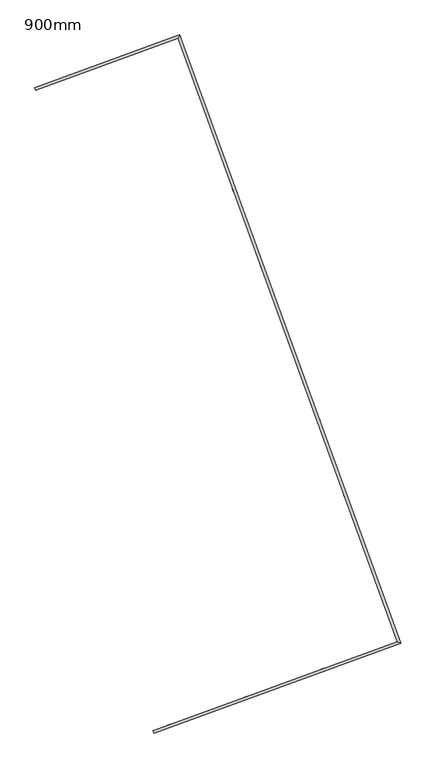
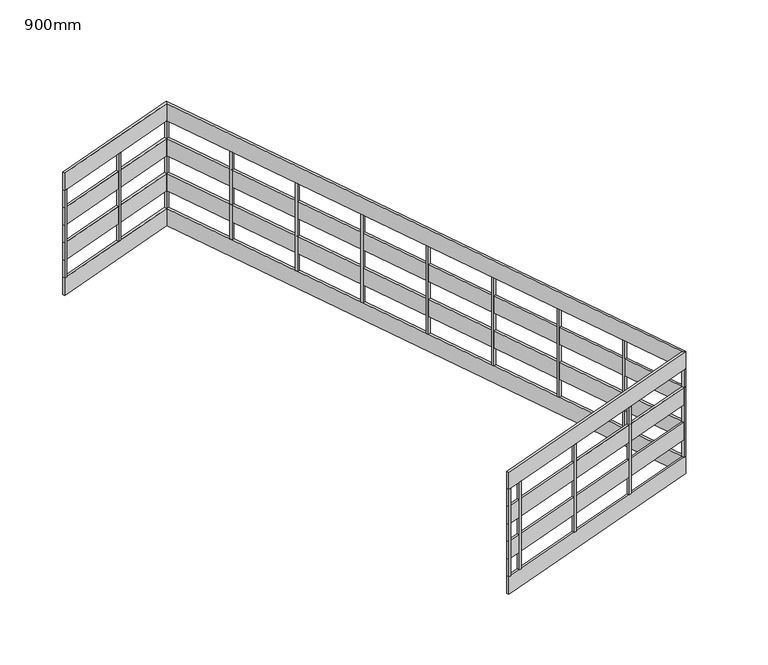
"""IFC4 building model written with IfcOpenShell, lengths in millimetres: railing geometry, 900mm."""

from ifc_helpers import new_model, si_unit, frame, origin, place, context, project, spatial, polyline, outline, extrude, faceted_brep, source, transform, mapped, element, save


def railing_900mm_b3789914(model_context):
    return source(origin(), model_context, "Body", "SolidModel", [
        faceted_brep([(48702.043664, -32715.5602784, 6920.0), (48702.043664, -32715.5602784, 6772.0), (48708.5420467, -32733.4144382, 6772.0), (48708.5420467, -32733.4144382, 6920.0), (49756.7691652, -32351.8909684, 6920.0), (49768.1249422, -32327.5384258, 6920.0), (49756.7691652, -32351.8909684, 6772.0), (51373.1563625, -36792.8782942, 6920.0), (51397.508905, -36804.2340713, 6920.0), (51373.1563625, -36792.8782942, 6772.0), (49579.6735301, -37465.8720385, 6920.0), (49573.1751474, -37448.0178787, 6920.0), (49573.1751474, -37448.0178787, 6772.0), (49579.6735301, -37465.8720385, 6772.0), (49768.1249422, -32327.5384258, 6772.0), (51397.508905, -36804.2340713, 6772.0)], [[[0, 1, 2, 3]], [[0, 3, 4, 5]], [[3, 2, 6, 4]], [[5, 4, 7, 8]], [[4, 6, 9, 7]], [[10, 11, 12, 13]], [[8, 7, 11, 10]], [[7, 9, 12, 11]], [[2, 1, 14, 6]], [[1, 0, 5, 14]], [[6, 14, 15, 9]], [[14, 5, 8, 15]], [[9, 15, 13, 12]], [[15, 8, 10, 13]]]),
        faceted_brep([(48702.043664, -32715.5602784, 6620.0), (48702.043664, -32715.5602784, 6472.0), (48708.5420467, -32733.4144382, 6472.0), (48708.5420467, -32733.4144382, 6620.0), (49756.7691652, -32351.8909684, 6620.0), (49768.1249422, -32327.5384258, 6620.0), (49756.7691652, -32351.8909684, 6472.0), (51373.1563625, -36792.8782942, 6620.0), (51397.508905, -36804.2340713, 6620.0), (51373.1563625, -36792.8782942, 6472.0), (49579.6735301, -37465.8720385, 6620.0), (49573.1751474, -37448.0178787, 6620.0), (49573.1751474, -37448.0178787, 6472.0), (49579.6735301, -37465.8720385, 6472.0), (49768.1249422, -32327.5384258, 6472.0), (51397.508905, -36804.2340713, 6472.0)], [[[0, 1, 2, 3]], [[0, 3, 4, 5]], [[3, 2, 6, 4]], [[5, 4, 7, 8]], [[4, 6, 9, 7]], [[10, 11, 12, 13]], [[8, 7, 11, 10]], [[7, 9, 12, 11]], [[2, 1, 14, 6]], [[1, 0, 5, 14]], [[6, 14, 15, 9]], [[14, 5, 8, 15]], [[9, 15, 13, 12]], [[15, 8, 10, 13]]]),
        faceted_brep([(48702.043664, -32715.5602784, 6320.0), (48702.043664, -32715.5602784, 6172.0), (48708.5420467, -32733.4144382, 6172.0), (48708.5420467, -32733.4144382, 6320.0), (49756.7691652, -32351.8909684, 6320.0), (49768.1249422, -32327.5384258, 6320.0), (49756.7691652, -32351.8909684, 6172.0), (51373.1563625, -36792.8782942, 6320.0), (51397.508905, -36804.2340713, 6320.0), (51373.1563625, -36792.8782942, 6172.0), (49579.6735301, -37465.8720385, 6320.0), (49573.1751474, -37448.0178787, 6320.0), (49573.1751474, -37448.0178787, 6172.0), (49579.6735301, -37465.8720385, 6172.0), (49768.1249422, -32327.5384258, 6172.0), (51397.508905, -36804.2340713, 6172.0)], [[[0, 1, 2, 3]], [[0, 3, 4, 5]], [[3, 2, 6, 4]], [[5, 4, 7, 8]], [[4, 6, 9, 7]], [[10, 11, 12, 13]], [[8, 7, 11, 10]], [[7, 9, 12, 11]], [[2, 1, 14, 6]], [[1, 0, 5, 14]], [[6, 14, 15, 9]], [[14, 5, 8, 15]], [[9, 15, 13, 12]], [[15, 8, 10, 13]]]),
        faceted_brep([(48702.043664, -32715.5602784, 6020.0), (48702.043664, -32715.5602784, 5872.0), (48708.5420467, -32733.4144382, 5872.0), (48708.5420467, -32733.4144382, 6020.0), (49756.7691652, -32351.8909684, 5872.0), (49756.7691652, -32351.8909684, 6020.0), (49768.1249422, -32327.5384258, 5872.0), (51373.1563625, -36792.8782942, 5872.0), (51373.1563625, -36792.8782942, 6020.0), (51397.508905, -36804.2340713, 5872.0), (49579.6735301, -37465.8720385, 6020.0), (49573.1751474, -37448.0178787, 6020.0), (49573.1751474, -37448.0178787, 5872.0), (49579.6735301, -37465.8720385, 5872.0), (49768.1249422, -32327.5384258, 6020.0), (51397.508905, -36804.2340713, 6020.0)], [[[0, 1, 2, 3]], [[3, 2, 4, 5]], [[2, 1, 6, 4]], [[5, 4, 7, 8]], [[4, 6, 9, 7]], [[10, 11, 12, 13]], [[8, 7, 12, 11]], [[7, 9, 13, 12]], [[0, 3, 5, 14]], [[1, 0, 14, 6]], [[14, 5, 8, 15]], [[6, 14, 15, 9]], [[15, 8, 11, 10]], [[9, 15, 10, 13]]]),
        extrude(outline(polyline([(49706.703044, -37420.1691655), (49687.9091916, -37427.0095684), (49681.0687887, -37408.2157159), (49699.8626411, -37401.3753131), (49706.703044, -37420.1691655)])), frame((0.0, 0.0, 6020.0), z_axis=(0.0, 0.0, 1.0), x_axis=(1.0, 0.0, 0.0)), (0.0, 0.0, 1.0), 752.0),
        extrude(outline(polyline([(50270.5186165, -37214.9570795), (50251.7247641, -37221.7974824), (50244.8843612, -37203.0036299), (50263.6782136, -37196.1632271), (50270.5186165, -37214.9570795)])), frame((0.0, 0.0, 6020.0), z_axis=(0.0, 0.0, 1.0), x_axis=(1.0, 0.0, 0.0)), (0.0, 0.0, 1.0), 752.0),
        extrude(outline(polyline([(50834.334189, -37009.7449935), (50815.5403365, -37016.5853964), (50808.6999337, -36997.791544), (50827.4937861, -36990.9511411), (50834.334189, -37009.7449935)])), frame((0.0, 0.0, 6020.0), z_axis=(0.0, 0.0, 1.0), x_axis=(1.0, 0.0, 0.0)), (0.0, 0.0, 1.0), 752.0),
        extrude(outline(polyline([(51204.9083805, -36273.6065768), (51211.7487833, -36292.4004292), (51192.9549309, -36299.240832), (51186.114528, -36280.4469796), (51204.9083805, -36273.6065768)])), frame((0.0, 0.0, 6020.0), z_axis=(0.0, 0.0, 1.0), x_axis=(1.0, 0.0, 0.0)), (0.0, 0.0, 1.0), 752.0),
        extrude(outline(polyline([(50999.6962945, -35709.7910043), (51006.5366973, -35728.5848567), (50987.7428449, -35735.4252596), (50980.902442, -35716.6314072), (50999.6962945, -35709.7910043)])), frame((0.0, 0.0, 6020.0), z_axis=(0.0, 0.0, 1.0), x_axis=(1.0, 0.0, 0.0)), (0.0, 0.0, 1.0), 752.0),
        extrude(outline(polyline([(50794.4842085, -35145.9754318), (50801.3246113, -35164.7692842), (50782.5307589, -35171.6096871), (50775.690356, -35152.8158347), (50794.4842085, -35145.9754318)])), frame((0.0, 0.0, 6020.0), z_axis=(0.0, 0.0, 1.0), x_axis=(1.0, 0.0, 0.0)), (0.0, 0.0, 1.0), 752.0),
        extrude(outline(polyline([(50589.2721225, -34582.1598593), (50596.1125253, -34600.9537118), (50577.3186729, -34607.7941146), (50570.47827, -34589.0002622), (50589.2721225, -34582.1598593)])), frame((0.0, 0.0, 6020.0), z_axis=(0.0, 0.0, 1.0), x_axis=(1.0, 0.0, 0.0)), (0.0, 0.0, 1.0), 752.0),
        extrude(outline(polyline([(50384.0600365, -34018.3442869), (50390.9004393, -34037.1381393), (50372.1065869, -34043.9785422), (50365.2661841, -34025.1846897), (50384.0600365, -34018.3442869)])), frame((0.0, 0.0, 6020.0), z_axis=(0.0, 0.0, 1.0), x_axis=(1.0, 0.0, 0.0)), (0.0, 0.0, 1.0), 752.0),
        extrude(outline(polyline([(50178.8479505, -33454.5287144), (50185.6883533, -33473.3225668), (50166.8945009, -33480.1629697), (50160.0540981, -33461.3691173), (50178.8479505, -33454.5287144)])), frame((0.0, 0.0, 6020.0), z_axis=(0.0, 0.0, 1.0), x_axis=(1.0, 0.0, 0.0)), (0.0, 0.0, 1.0), 752.0),
        extrude(outline(polyline([(49973.6358645, -32890.7131419), (49980.4762673, -32909.5069943), (49961.6824149, -32916.3473972), (49954.8420121, -32897.5535448), (49973.6358645, -32890.7131419)])), frame((0.0, 0.0, 6020.0), z_axis=(0.0, 0.0, 1.0), x_axis=(1.0, 0.0, 0.0)), (0.0, 0.0, 1.0), 752.0),
        extrude(outline(polyline([(49256.2913002, -32513.2985476), (49275.0851526, -32506.4581447), (49281.9255554, -32525.2519971), (49263.131703, -32532.0924), (49256.2913002, -32513.2985476)])), frame((0.0, 0.0, 6020.0), z_axis=(0.0, 0.0, 1.0), x_axis=(1.0, 0.0, 0.0)), (0.0, 0.0, 1.0), 752.0),
        extrude(outline(polyline([(51391.3093586, -36785.7390551), (51398.1497614, -36804.5329075), (51379.355909, -36811.3733104), (51372.5155061, -36792.579458), (51391.3093586, -36785.7390551)])), frame((0.0, 0.0, 6020.0), z_axis=(0.0, 0.0, 1.0), x_axis=(1.0, 0.0, 0.0)), (0.0, 0.0, 1.0), 752.0),
        extrude(outline(polyline([(49749.6299261, -32333.7379723), (49768.4237785, -32326.8975695), (49775.2641813, -32345.6914219), (49756.4703289, -32352.5318247), (49749.6299261, -32333.7379723)])), frame((0.0, 0.0, 6020.0), z_axis=(0.0, 0.0, 1.0), x_axis=(1.0, 0.0, 0.0)), (0.0, 0.0, 1.0), 752.0),
        extrude(outline(polyline([(49598.6383926, -37459.501482), (49579.8445402, -37466.3418848), (49573.0041373, -37447.5480324), (49591.7979898, -37440.7076296), (49598.6383926, -37459.501482)])), frame((0.0, 0.0, 6020.0), z_axis=(0.0, 0.0, 1.0), x_axis=(1.0, 0.0, 0.0)), (0.0, 0.0, 1.0), 752.0),
        extrude(outline(polyline([(48701.8726539, -32715.0904321), (48720.6665063, -32708.2500293), (48727.5069092, -32727.0438817), (48708.7130568, -32733.8842845), (48701.8726539, -32715.0904321)])), frame((0.0, 0.0, 6020.0), z_axis=(0.0, 0.0, 1.0), x_axis=(1.0, 0.0, 0.0)), (0.0, 0.0, 1.0), 752.0),
    ])


if __name__ == "__main__":
    model = new_model("IFC4")
    model_context = context("Model", 3, world=origin())
    ifc_project = project(units=[si_unit("LENGTHUNIT", "METRE", prefix="MILLI")], contexts=[model_context])
    site = spatial("IfcSite", under=ifc_project)
    building = spatial("IfcBuilding", under=site)
    placement = place(None, origin())
    railing_900mm_shape = railing_900mm_b3789914(model_context)
    element("IfcRailing", 1, ObjectType="900mm", at=placement, inside=building, context=model_context, shape_type="MappedRepresentation", body=[
        mapped(railing_900mm_shape, transform((0.0, 0.0, 0.0), x_axis=(1.0, 0.0, 0.0), y_axis=(0.0, 1.0, 0.0), z_axis=(0.0, 0.0, 1.0))),
    ])
    save(model, "model.ifc")
